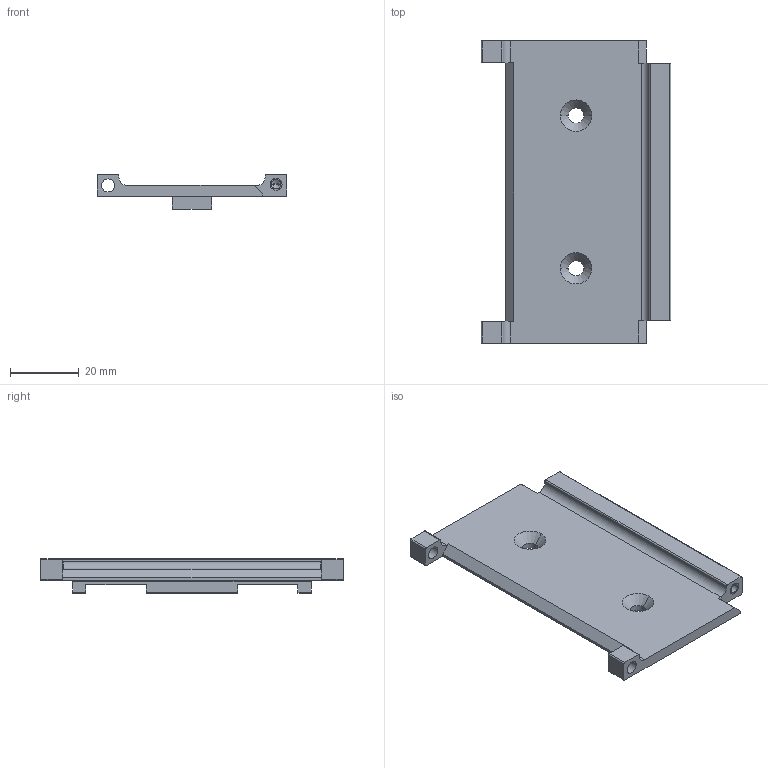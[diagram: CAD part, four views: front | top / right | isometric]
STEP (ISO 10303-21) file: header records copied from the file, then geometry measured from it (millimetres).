
FILE_DESCRIPTION((''),'2;1');
FILE_NAME('4288-2-301','2015-03-30T',('jpeters'),('Keithley Instruments, Inc'),'PRO/ENGINEER BY PARAMETRIC TECHNOLOGY CORPORATION, 2012480','PRO/ENGINEER BY PARAMETRIC TECHNOLOGY CORPORATION, 2012480','');
FILE_SCHEMA(('CONFIG_CONTROL_DESIGN'));
Length unit declared in the file: inch
Products named in the file (1): 4288-2-301
Bounding box: 55.24 x 88.11 x 10.16 mm (x, y, z)
Volume: 16468 mm3; surface area: 11090.2 mm2
Topology: 1 solids, 3 shells, 82 faces, 227 edges, 148 vertices
Faces by surface type: plane 38, cylinder 36, cone 8
Entity records: 2670 total; most frequent: DIRECTION 469, CARTESIAN_POINT 454, ORIENTED_EDGE 438, EDGE_CURVE 223, AXIS2_PLACEMENT_3D 163, VERTEX_POINT 148, VECTOR 143, LINE 143
